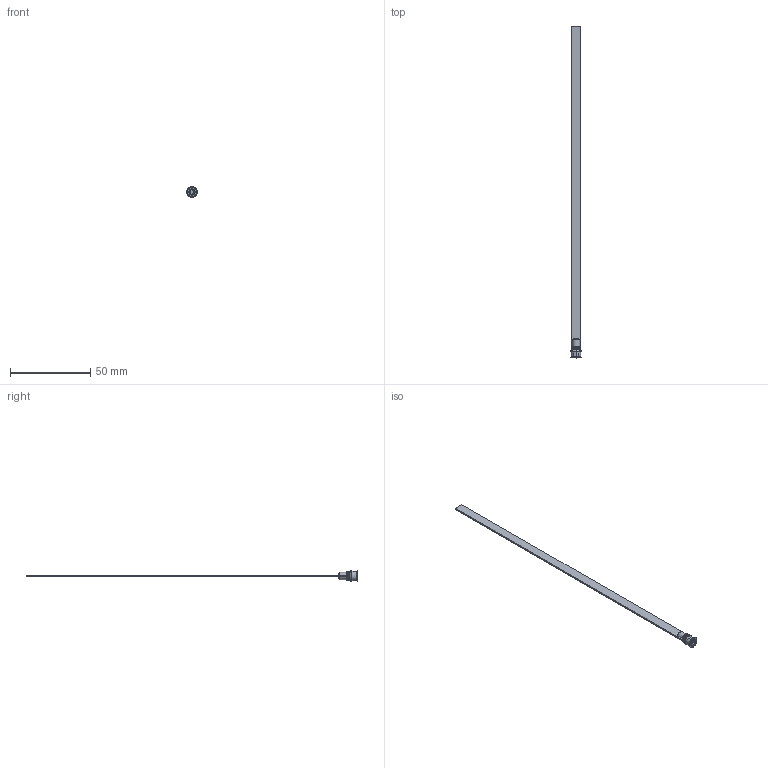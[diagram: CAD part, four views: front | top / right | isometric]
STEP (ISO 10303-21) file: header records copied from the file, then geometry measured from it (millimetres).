
FILE_DESCRIPTION (( 'STEP AP203' ), '1' );
FILE_NAME ('RL6Fx200.STEP', '2015-12-02T09:32:05', ( 'Balzi' ), ( '' ), 'SwSTEP 2.0', 'SolidWorks 2015', '' );
FILE_SCHEMA (( 'CONFIG_CONTROL_DESIGN' ));
Length unit declared in the file: millimetre
Products named in the file (1): RL6Fx200
Bounding box: 6.8 x 207 x 6.8 mm (x, y, z)
Volume: 1360.9 mm3; surface area: 3090.9 mm2
Topology: 1 solids, 1 shells, 62 faces, 150 edges, 96 vertices
Faces by surface type: plane 28, cylinder 15, cone 12, torus 7
Entity records: 1920 total; most frequent: CARTESIAN_POINT 379, DIRECTION 313, ORIENTED_EDGE 300, EDGE_CURVE 150, AXIS2_PLACEMENT_3D 118, VERTEX_POINT 96, LINE 77, VECTOR 77
